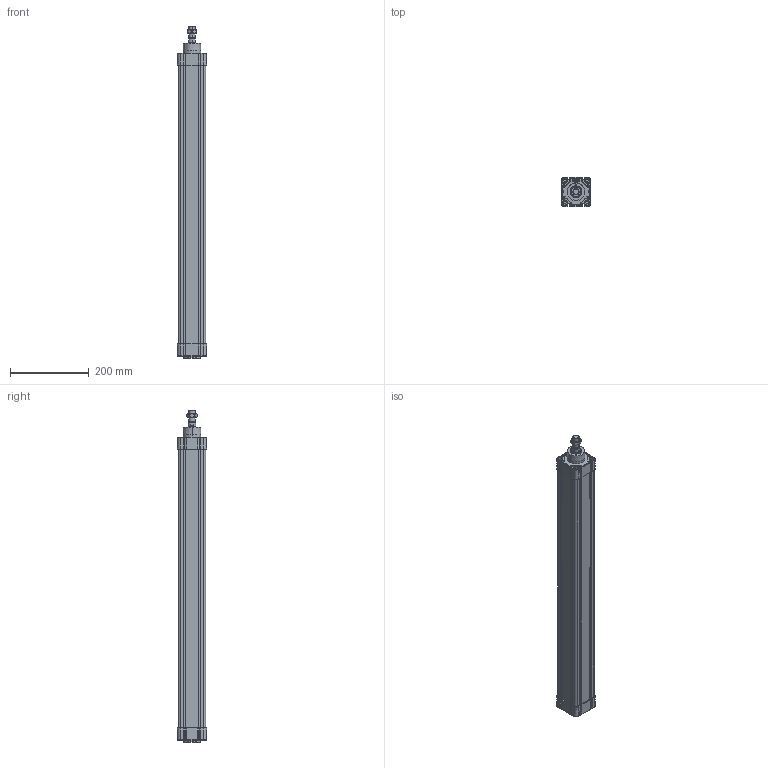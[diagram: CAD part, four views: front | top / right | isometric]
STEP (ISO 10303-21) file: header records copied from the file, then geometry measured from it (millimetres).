
FILE_DESCRIPTION (( 'STEP AP214' ), '1' );
FILE_NAME ('N11M20630650.STEP', '2021-09-28T09:45:36', ( '' ), ( '' ), 'SwSTEP 2.0', 'SolidWorks 2016', '' );
FILE_SCHEMA (( 'AUTOMOTIVE_DESIGN' ));
Length unit declared in the file: millimetre
Products named in the file (7): 21.D01.0000_21.D01.0650; 21.752.0; 000.513.7_000.513.0650; Pistone Ø63 ISO 15552; TP Ø63 ISO 15552 WEB; N11M20630650; TA Ø63 ISO 15552 WEB
Assembly tree (6 placements, depth 2):
  N11M20630650
    TP Ø63 ISO 15552 WEB
    TA Ø63 ISO 15552 WEB
    Pistone Ø63 ISO 15552
    21.D01.0000_21.D01.0650
    21.752.0
    000.513.7_000.513.0650
Bounding box: 73.97 x 73.98 x 845 mm (x, y, z)
Volume: 1608337.8 mm3; surface area: 646906.5 mm2
Topology: 17 solids, 17 shells, 2051 faces, 5196 edges, 3175 vertices
Faces by surface type: plane 700, cylinder 692, bspline 284, cone 186, torus 151, sphere 38
Entity records: 87292 total; most frequent: CARTESIAN_POINT 19954, ORIENTED_EDGE 10238, DIRECTION 9519, EDGE_CURVE 5119, AXIS2_PLACEMENT_3D 3540, VERTEX_POINT 3175, VECTOR 2439, LINE 2439
